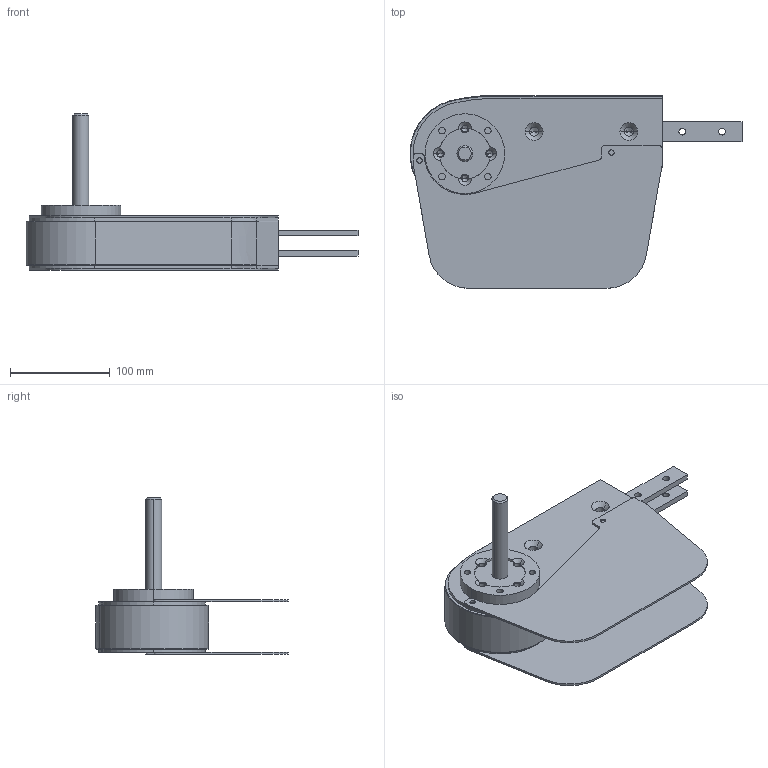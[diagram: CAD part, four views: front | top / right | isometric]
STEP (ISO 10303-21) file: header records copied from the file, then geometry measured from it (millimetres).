
FILE_DESCRIPTION (( 'STEP AP214' ), '1' );
FILE_NAME ('FKDD 250 OL.step', '2017-04-07T11:06:53', ( '' ), ( '' ), 'SwSTEP 2.0', 'SolidWorks 2016', '' );
FILE_SCHEMA (( 'AUTOMOTIVE_DESIGN' ));
Length unit declared in the file: millimetre
Products named in the file (1): FKDD 250 OL
Bounding box: 333.03 x 193.12 x 157.3 mm (x, y, z)
Volume: 1320211.9 mm3; surface area: 217666.6 mm2
Topology: 7 solids, 7 shells, 218 faces, 555 edges, 336 vertices
Faces by surface type: cylinder 97, cone 54, plane 52, bspline 11, torus 4
Entity records: 7209 total; most frequent: CARTESIAN_POINT 1482, DIRECTION 1144, ORIENTED_EDGE 1062, EDGE_CURVE 531, AXIS2_PLACEMENT_3D 440, VERTEX_POINT 336, LINE 264, VECTOR 264
